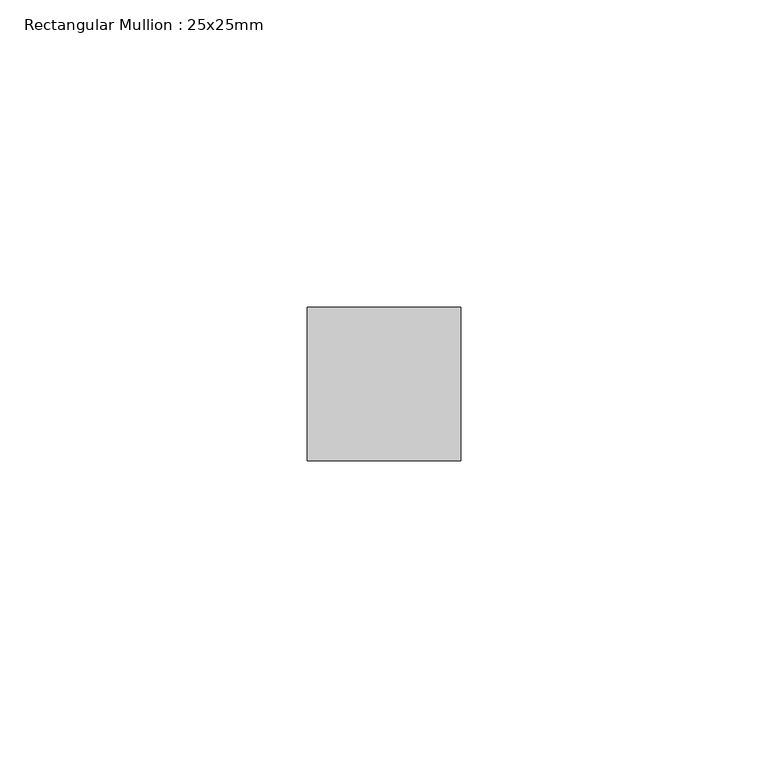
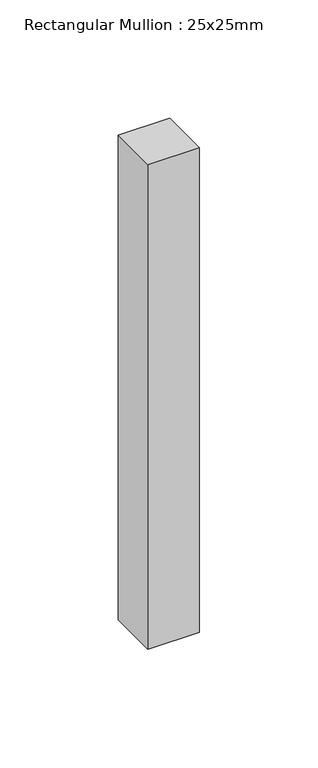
"""IFC4 building model written with IfcOpenShell, lengths in millimetres: member geometry, Rectangular Mullion : 25x25mm."""

from ifc_helpers import new_model, si_unit, frame, origin, place, context, project, spatial, polyline, outline, extrude, source, transform, mapped, element, save


def rectangular_mullion_25x25mm_b69b14d1(model_context):
    return source(origin(), model_context, "Body", "SweptSolid", [
        extrude(outline(polyline([(0.0, 24.5), (0.0, -0.5), (-25.0, -0.5), (-25.0, 24.5), (0.0, 24.5)])), frame((0.0, 0.0, -250.0), z_axis=(0.0, 0.0, 1.0), x_axis=(1.0, 0.0, 0.0)), (0.0, 0.0, 1.0), 250.0),
    ])


if __name__ == "__main__":
    model = new_model("IFC4")
    model_context = context("Model", 3, world=origin())
    ifc_project = project(units=[si_unit("LENGTHUNIT", "METRE", prefix="MILLI")], contexts=[model_context])
    site = spatial("IfcSite", under=ifc_project)
    building = spatial("IfcBuilding", under=site)
    placement = place(None, origin())
    rectangular_mullion_25x25mm_shape = rectangular_mullion_25x25mm_b69b14d1(model_context)
    element("IfcMember", 1, ObjectType="Rectangular Mullion : 25x25mm", at=placement, inside=building, context=model_context, shape_type="MappedRepresentation", body=[
        mapped(rectangular_mullion_25x25mm_shape, transform((0.0, 0.0, 0.0), x_axis=(1.0, 0.0, 0.0), y_axis=(0.0, 1.0, 0.0), z_axis=(0.0, 0.0, 1.0))),
    ])
    save(model, "model.ifc")
